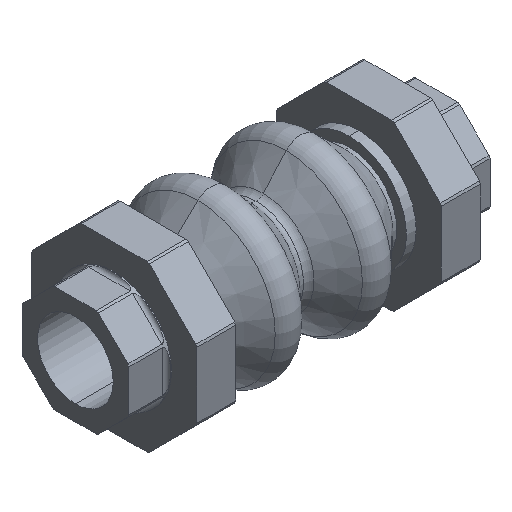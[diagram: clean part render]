
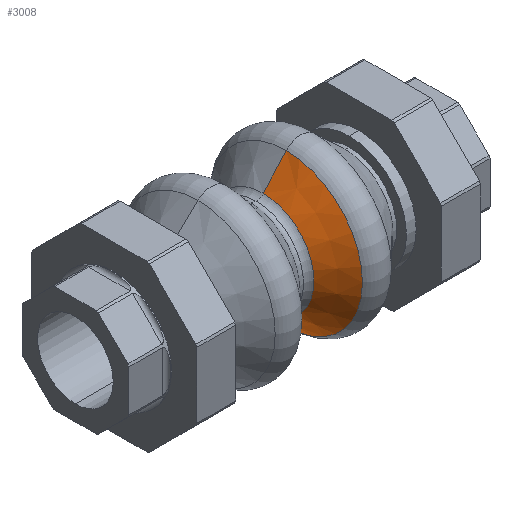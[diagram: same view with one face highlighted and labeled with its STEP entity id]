
A CAD part, isometric view. The second image highlights one B-rep face of the part: STEP entity #3008.
In plain terms, the highlighted conical face has half-angle 47.779 degrees and reference radius 39.22 mm.
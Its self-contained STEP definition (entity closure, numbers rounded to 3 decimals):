
#176 = EDGE_LOOP ( 'NONE', ( #3010, #3000, #202, #203 ) ) ;
#177 = EDGE_CURVE ( 'NONE', #1550, #1451, #4654, .T. ) ;
#202 = ORIENTED_EDGE ( 'NONE', *, *, #1508, .T. ) ;
#203 = ORIENTED_EDGE ( 'NONE', *, *, #177, .T. ) ;
#1451 = VERTEX_POINT ( 'NONE', #2646 ) ;
#1455 = VERTEX_POINT ( 'NONE', #2695 ) ;
#1506 = EDGE_CURVE ( 'NONE', #1455, #1451, #2783, .T. ) ;
#1508 = EDGE_CURVE ( 'NONE', #1594, #1550, #2770, .T. ) ;
#1515 = EDGE_CURVE ( 'NONE', #1594, #1455, #2810, .T. ) ;
#1550 = VERTEX_POINT ( 'NONE', #2827 ) ;
#1594 = VERTEX_POINT ( 'NONE', #2992 ) ;
#2646 = CARTESIAN_POINT ( 'NONE',  ( 15.594, 0., 39.22 ) ) ;
#2695 = CARTESIAN_POINT ( 'NONE',  ( 3.703, 0., 26.115 ) ) ;
#2767 = DIRECTION ( 'NONE',  ( 0.672, 0., -0.741 ) ) ;
#2768 = VECTOR ( 'NONE', #2767, 1000. ) ;
#2769 = CARTESIAN_POINT ( 'NONE',  ( 15.594, 0., -39.22 ) ) ;
#2770 = LINE ( 'NONE', #2769, #2768 ) ;
#2772 = DIRECTION ( 'NONE',  ( 0.672, 0., 0.741 ) ) ;
#2773 = VECTOR ( 'NONE', #2772, 1000. ) ;
#2774 = CARTESIAN_POINT ( 'NONE',  ( 15.594, 0., 39.22 ) ) ;
#2783 = LINE ( 'NONE', #2774, #2773 ) ;
#2803 = DIRECTION ( 'NONE',  ( 0., 0., 1. ) ) ;
#2804 = DIRECTION ( 'NONE',  ( -1., 0., 0. ) ) ;
#2805 = CARTESIAN_POINT ( 'NONE',  ( 3.703, 0., 0. ) ) ;
#2806 = AXIS2_PLACEMENT_3D ( 'NONE', #2805, #2804, #2803 ) ;
#2810 = CIRCLE ( 'NONE', #2806, 26.115 ) ;
#2827 = CARTESIAN_POINT ( 'NONE',  ( 15.594, 0., -39.22 ) ) ;
#2992 = CARTESIAN_POINT ( 'NONE',  ( 3.703, 0., -26.115 ) ) ;
#3000 = ORIENTED_EDGE ( 'NONE', *, *, #1515, .F. ) ;
#3008 = ADVANCED_FACE ( 'NONE', ( #4338 ), #4347, .T. ) ;
#3010 = ORIENTED_EDGE ( 'NONE', *, *, #1506, .F. ) ;
#4315 = DIRECTION ( 'NONE',  ( 1., 0., 0. ) ) ;
#4319 = AXIS2_PLACEMENT_3D ( 'NONE', #4339, #4315, #4332 ) ;
#4332 = DIRECTION ( 'NONE',  ( 0., 0., -1. ) ) ;
#4338 = FACE_OUTER_BOUND ( 'NONE', #176, .T. ) ;
#4339 = CARTESIAN_POINT ( 'NONE',  ( 15.594, 0., 0. ) ) ;
#4347 = CONICAL_SURFACE ( 'NONE', #4319, 39.22, 0.834 ) ;
#4603 = DIRECTION ( 'NONE',  ( 0., 0., 1. ) ) ;
#4604 = DIRECTION ( 'NONE',  ( -1., 0., 0. ) ) ;
#4654 = CIRCLE ( 'NONE', #4658, 39.22 ) ;
#4658 = AXIS2_PLACEMENT_3D ( 'NONE', #4664, #4604, #4603 ) ;
#4664 = CARTESIAN_POINT ( 'NONE',  ( 15.594, 0., 0. ) ) ;
